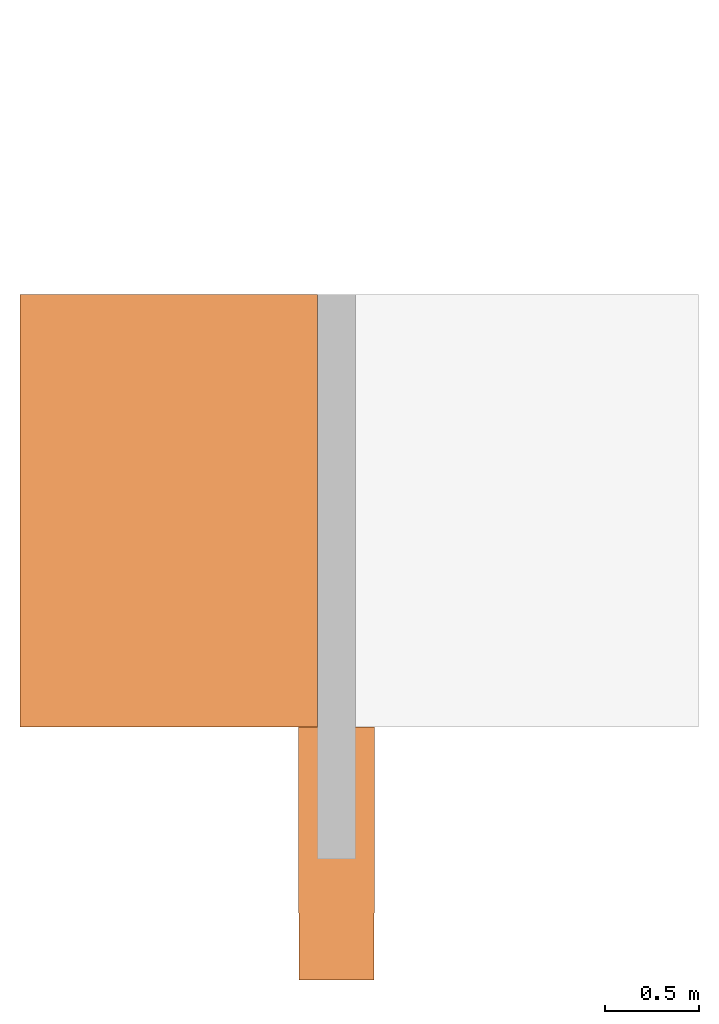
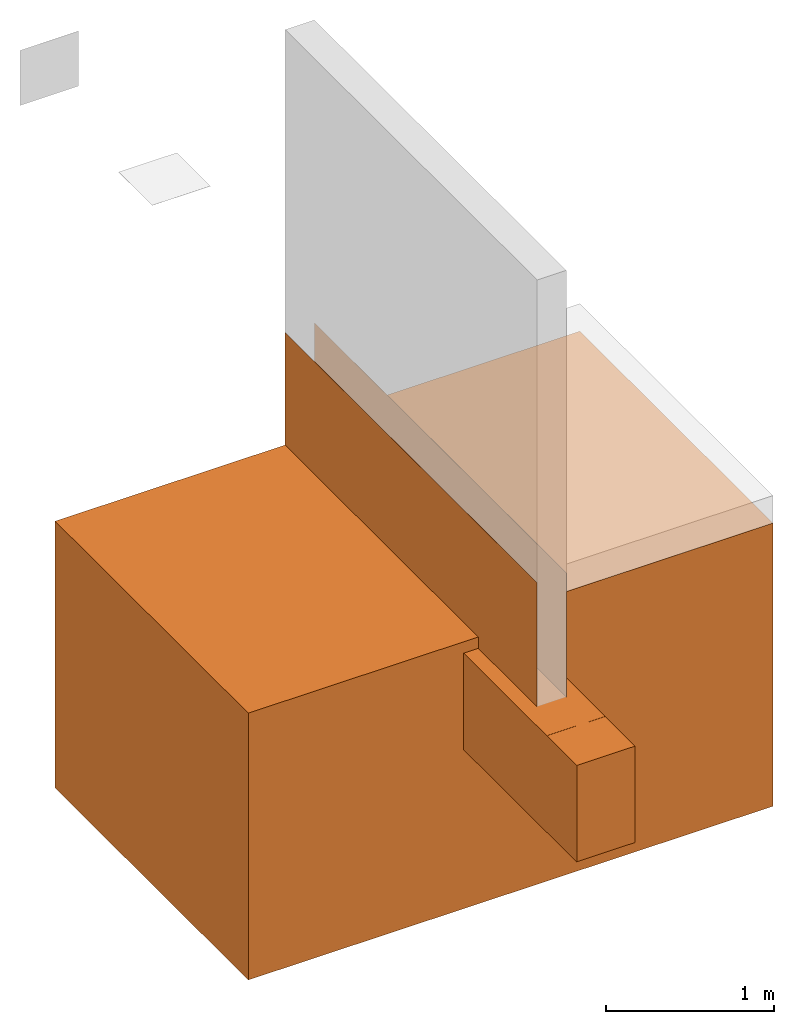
# One storey, part 2 of 2: 1 proxy.
"""IFC2X3 building model written with IfcOpenShell, lengths in metres."""

import ifcopenshell
import ifcopenshell.guid

model = None  # the IFC model being written
_history = None  # IfcOwnerHistory: only IFC2X3 demands one
_inside = {}  # id of a spatial element -> (the spatial element, [elements in it])
_under = {}  # id of a project, library or spatial element -> (it, [spatial elements below it])
_declared = {}  # id of a project -> (the project, [libraries it declares])
_typed = {}  # id of a type object -> (the type object, [elements of that type])
_made_of = {}  # id of a material, layer set ... -> (it, [elements and type objects made of it])


def new_model(schema):
    """Start an empty IFC model of exactly this schema.

    Asked for "IFC4X3", IfcOpenShell would pick the latest addendum, in which some entities
    have other attributes; the version numbers below select the first issue.
    IFC2X3 requires an IfcOwnerHistory on every rooted entity: one is made here for all.
    """
    global model, _history
    if schema == "IFC4X3":
        model = ifcopenshell.file(schema_version=(4, 3, 0, 0))
    else:
        model = ifcopenshell.file(schema=schema)
    _inside.clear()
    _under.clear()
    _declared.clear()
    _typed.clear()
    _made_of.clear()
    _history = None
    if model.schema == "IFC2X3":
        org = make("IfcOrganization", Name="unknown")
        user = make(
            "IfcPersonAndOrganization",
            ThePerson=make("IfcPerson", FamilyName="unknown"),
            TheOrganization=org,
        )
        app = make(
            "IfcApplication",
            ApplicationDeveloper=org,
            Version="unknown",
            ApplicationFullName="unknown",
            ApplicationIdentifier="unknown",
        )
        _history = make(
            "IfcOwnerHistory",
            OwningUser=user,
            OwningApplication=app,
            ChangeAction="ADDED",
            CreationDate=0,
        )
    return model


def make(cls, **values):
    """One entity of the class cls with the attributes given. An attribute that is None is left unset."""
    return model.create_entity(
        cls, **{name: value for name, value in values.items() if value is not None}
    )


def entity(cls, *values):
    """Any entity or typed value of the class cls, its attributes in the order of the schema. None: left unset."""
    e = model.create_entity(cls)
    for i, value in enumerate(values):
        if value is not None:
            e[i] = value
    return e


def rooted(cls, **values):
    """An entity with a GlobalId (a new one), such as an element, a storey or a relation."""
    return make(cls, GlobalId=ifcopenshell.guid.new(), OwnerHistory=_history, **values)


def si_unit(unit_type, name, prefix=None):
    """IfcSIUnit, for example si_unit("LENGTHUNIT", "METRE", prefix="MILLI")."""
    return make("IfcSIUnit", UnitType=unit_type, Prefix=prefix, Name=name)


def converted_unit(unit_type, name, factor, base, dimensions=None, offset=None):
    """IfcConversionBasedUnit, such as the inch: factor (a typed value) times the base unit."""
    return make(
        "IfcConversionBasedUnit"
        if offset is None
        else "IfcConversionBasedUnitWithOffset",
        ConversionOffset=offset,
        Dimensions=None
        if dimensions is None
        else entity("IfcDimensionalExponents", *dimensions),
        UnitType=unit_type,
        Name=name,
        ConversionFactor=make(
            "IfcMeasureWithUnit", ValueComponent=factor, UnitComponent=base
        ),
    )


def derived_unit(unit_type, elements):
    """IfcDerivedUnit: a product of units, each with its exponent."""
    return make(
        "IfcDerivedUnit",
        Elements=[
            make("IfcDerivedUnitElement", Unit=unit, Exponent=power)
            for unit, power in elements
        ],
        UnitType=unit_type,
    )


def assignment(units):
    """IfcUnitAssignment: the units of a project."""
    return None if units is None else make("IfcUnitAssignment", Units=units)


def point(xyz):
    """IfcCartesianPoint."""
    return None if xyz is None else make("IfcCartesianPoint", Coordinates=xyz)


def direction(xyz):
    """IfcDirection."""
    return None if xyz is None else make("IfcDirection", DirectionRatios=xyz)


def frame(location, z_axis=None, x_axis=None):
    """IfcAxis2Placement3D, a coordinate frame: its origin and axes. An axis left out is left unset."""
    return make(
        "IfcAxis2Placement3D",
        Location=point(location),
        Axis=direction(z_axis),
        RefDirection=direction(x_axis),
    )


def frame_2d(location, x_axis=None):
    """IfcAxis2Placement2D, a coordinate frame in the plane: its origin and x axis."""
    return make(
        "IfcAxis2Placement2D", Location=point(location), RefDirection=direction(x_axis)
    )


def origin():
    """The frame at (0, 0, 0) with its axes left unset."""
    return frame((0.0, 0.0, 0.0))


def origin_2d_with_axis():
    """The frame at (0, 0) in the plane with the x axis (1, 0) written out."""
    return frame_2d((0.0, 0.0), x_axis=(1.0, 0.0))


def place(relative_to, where):
    """IfcLocalPlacement: puts the frame where relative to a parent placement (None: the world)."""
    return make(
        "IfcLocalPlacement", PlacementRelTo=relative_to, RelativePlacement=where
    )


def context(
    kind, dimensions, precision=None, world=None, true_north=None, identifier=None
):
    """IfcGeometricRepresentationContext, for example the 3D "Model" context."""
    return make(
        "IfcGeometricRepresentationContext",
        ContextIdentifier=identifier,
        ContextType=kind,
        CoordinateSpaceDimension=dimensions,
        Precision=precision,
        WorldCoordinateSystem=world,
        TrueNorth=true_north,
    )


def subcontext(parent, identifier, kind, view, scale=None):
    """IfcGeometricRepresentationSubContext, for example "Body" below "Model"."""
    return make(
        "IfcGeometricRepresentationSubContext",
        ContextIdentifier=identifier,
        ContextType=kind,
        ParentContext=parent,
        TargetScale=scale,
        TargetView=view,
    )


def project(units=None, contexts=None):
    """IfcProject with its units and contexts."""
    return rooted(
        "IfcProject",
        Name="project",
        RepresentationContexts=contexts,
        UnitsInContext=assignment(units),
    )


def spatial(cls, under=None, at=None, **own):
    """A site, building, storey or space (cls), placed at a placement, below another one or the project."""
    s = rooted(cls, ObjectPlacement=at, **own)
    if under is not None:
        _under.setdefault(under.id(), (under, []))[1].append(s)
    return s


def polyline(points):
    """IfcPolyline through the points."""
    return make("IfcPolyline", Points=[point(p) for p in points])


def profile(cls, at=None, kind="AREA", **sizes):
    """A parametric profile (cls). Its sizes go by their IFC names, for example OverallWidth=200.0."""
    return make(cls, ProfileType=kind, Position=at, **sizes)


def rectangle(**sizes):
    """IfcRectangleProfileDef."""
    return profile("IfcRectangleProfileDef", **sizes)


def outline(outer, holes=None, kind="AREA"):
    """IfcArbitraryClosedProfileDef: a profile drawn as a closed curve; with holes, ...WithVoids."""
    if holes is None:
        return make("IfcArbitraryClosedProfileDef", ProfileType=kind, OuterCurve=outer)
    return make(
        "IfcArbitraryProfileDefWithVoids",
        ProfileType=kind,
        OuterCurve=outer,
        InnerCurves=holes,
    )


def extrude(swept, where, along, depth):
    """IfcExtrudedAreaSolid: the profile swept, set in the frame where, extruded along a direction by depth."""
    return make(
        "IfcExtrudedAreaSolid",
        SweptArea=swept,
        Position=where,
        ExtrudedDirection=direction(along),
        Depth=depth,
    )


def shape(context_of_items, identifier, shape_type, items):
    """IfcShapeRepresentation: the items that make up one representation, for example the "Body"."""
    return make(
        "IfcShapeRepresentation",
        ContextOfItems=context_of_items,
        RepresentationIdentifier=identifier,
        RepresentationType=shape_type,
        Items=items,
    )


def source(mapping_origin, context_of_items, identifier, shape_type, items):
    """IfcRepresentationMap: a shape defined once, which mapped items show again and again."""
    return make(
        "IfcRepresentationMap",
        MappingOrigin=mapping_origin,
        MappedRepresentation=shape(context_of_items, identifier, shape_type, items),
    )


def transform(
    local_origin,
    x_axis=None,
    y_axis=None,
    z_axis=None,
    scale=None,
    scale2=None,
    scale3=None,
    uniform=True,
):
    """IfcCartesianTransformationOperator3D, or its non-uniform kind. x_axis, y_axis, z_axis: its Axis1, 2, 3."""
    if uniform:
        return make(
            "IfcCartesianTransformationOperator3D",
            Axis1=direction(x_axis),
            Axis2=direction(y_axis),
            LocalOrigin=point(local_origin),
            Scale=scale,
            Axis3=direction(z_axis),
        )
    return make(
        "IfcCartesianTransformationOperator3DnonUniform",
        Axis1=direction(x_axis),
        Axis2=direction(y_axis),
        LocalOrigin=point(local_origin),
        Scale=scale,
        Axis3=direction(z_axis),
        Scale2=scale2,
        Scale3=scale3,
    )


def mapped(mapping_source, mapping_target):
    """IfcMappedItem: shows the shape of a source again, moved by a transform."""
    return make(
        "IfcMappedItem", MappingSource=mapping_source, MappingTarget=mapping_target
    )


def material(Name=None, Category=None):
    """IfcMaterial."""
    return make("IfcMaterial", Name=Name, Category=Category)


def material_list(materials):
    """IfcMaterialList."""
    return make("IfcMaterialList", Materials=materials)


def made_of(thing, what):
    """Note that an element or type object is made of a material, layer set ...; save() writes the relation."""
    if what is not None:
        _made_of.setdefault(what.id(), (what, []))[1].append(thing)
    return thing


def type_object(cls, material=None, **own):
    """A type object (cls), such as IfcWallType, which elements share."""
    return made_of(rooted(cls, **own), material)


def type_shapes(of_type, sources):
    """Give a type object the sources (RepresentationMaps) that its elements show as mapped items."""
    of_type.RepresentationMaps = sources


def element(
    cls,
    number,
    at=None,
    inside=None,
    cuts=None,
    type_object=None,
    material=None,
    context=None,
    identifier="Body",
    shape_type=None,
    held_by="IfcProductDefinitionShape",
    body=None,
    shapes=None,
    **own,
):
    """One element of the class cls, such as IfcWall. Its Tag is "e" and its number.

    at: its placement. inside: the storey or other place that contains it. cuts: it is an
    opening in that element (IfcRelVoidsElement). A single representation is given by context,
    identifier, shape_type and body (its items); several are given by shapes. held_by: the class
    of the entity that holds the representations. save() writes the other relations.
    """
    e = rooted(cls, Tag="e%d" % number, ObjectPlacement=at, **own)
    if body is not None:
        shapes = [shape(context, identifier, shape_type, body)]
    if shapes is not None:
        e.Representation = make(held_by, Representations=shapes)
    if inside is not None:
        _inside.setdefault(inside.id(), (inside, []))[1].append(e)
    if cuts is not None:
        rooted(
            "IfcRelVoidsElement", RelatingBuildingElement=cuts, RelatedOpeningElement=e
        )
    if type_object is not None:
        _typed.setdefault(type_object.id(), (type_object, []))[1].append(e)
    return made_of(e, material)


def aggregate(whole, parts):
    """IfcRelAggregates: a whole, such as a stair, and the parts it consists of."""
    return rooted("IfcRelAggregates", RelatingObject=whole, RelatedObjects=parts)


def save(model, path):
    """Write the relations noted so far, then the file.

    IfcRelAggregates (storeys below a building ...), IfcRelContainedInSpatialStructure (elements
    in a storey), IfcRelDefinesByType, IfcRelAssociatesMaterial and IfcRelDeclares: one each for
    every whole, place, type object, material and project.
    """
    for whole, parts in _under.values():
        aggregate(whole, parts)
    for where, things in _inside.values():
        rooted(
            "IfcRelContainedInSpatialStructure",
            RelatedElements=things,
            RelatingStructure=where,
        )
    for kind, things in _typed.values():
        rooted("IfcRelDefinesByType", RelatedObjects=things, RelatingType=kind)
    for what, things in _made_of.values():
        rooted("IfcRelAssociatesMaterial", RelatedObjects=things, RelatingMaterial=what)
    for by, libraries in _declared.values():
        rooted("IfcRelDeclares", RelatingContext=by, RelatedDefinitions=libraries)
    model.write(path)


model = new_model("IFC2X3")

# Units and contexts
model_context = context("Model", 3, precision=1e-05, world=origin(), true_north=direction((6.123031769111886e-17, 1.0)))
body_context = subcontext(model_context, "Body", "Model", "MODEL_VIEW")
ifc_project = project(units=[si_unit("LENGTHUNIT", "METRE"), si_unit("AREAUNIT", "SQUARE_METRE"), si_unit("VOLUMEUNIT", "CUBIC_METRE"), converted_unit("PLANEANGLEUNIT", "DEGREE", entity("IfcRatioMeasure", 0.017453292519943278), si_unit("PLANEANGLEUNIT", "RADIAN"), dimensions=[0, 0, 0, 0, 0, 0, 0]), si_unit("MASSUNIT", "GRAM", prefix="KILO"), derived_unit("MASSDENSITYUNIT", [(si_unit("MASSUNIT", "GRAM", prefix="KILO"), 1), (si_unit("LENGTHUNIT", "METRE"), -3)]), derived_unit("IONCONCENTRATIONUNIT", [(si_unit("MASSUNIT", "GRAM", prefix="KILO"), 1), (si_unit("LENGTHUNIT", "METRE"), -3)]), derived_unit("MOMENTOFINERTIAUNIT", [(si_unit("LENGTHUNIT", "METRE"), 4)]), si_unit("TIMEUNIT", "SECOND"), si_unit("FREQUENCYUNIT", "HERTZ"), si_unit("THERMODYNAMICTEMPERATUREUNIT", "DEGREE_CELSIUS"), derived_unit("THERMALTRANSMITTANCEUNIT", [(si_unit("MASSUNIT", "GRAM", prefix="KILO"), 1), (si_unit("THERMODYNAMICTEMPERATUREUNIT", "KELVIN"), -1), (si_unit("TIMEUNIT", "SECOND"), -3)]), derived_unit("THERMALCONDUCTANCEUNIT", [(si_unit("MASSUNIT", "GRAM", prefix="KILO"), 1), (si_unit("THERMODYNAMICTEMPERATUREUNIT", "KELVIN"), -1), (si_unit("TIMEUNIT", "SECOND"), -3), (si_unit("LENGTHUNIT", "METRE"), 1)]), derived_unit("VOLUMETRICFLOWRATEUNIT", [(si_unit("LENGTHUNIT", "METRE"), 3), (si_unit("TIMEUNIT", "SECOND"), -1)]), derived_unit("MASSFLOWRATEUNIT", [(si_unit("MASSUNIT", "GRAM", prefix="KILO"), 1), (si_unit("TIMEUNIT", "SECOND"), -1)]), derived_unit("ROTATIONALFREQUENCYUNIT", [(si_unit("TIMEUNIT", "SECOND"), -1)]), si_unit("ELECTRICCURRENTUNIT", "AMPERE"), si_unit("ELECTRICVOLTAGEUNIT", "VOLT"), si_unit("POWERUNIT", "WATT"), si_unit("FORCEUNIT", "NEWTON", prefix="KILO"), si_unit("ILLUMINANCEUNIT", "LUX"), si_unit("LUMINOUSFLUXUNIT", "LUMEN"), si_unit("LUMINOUSINTENSITYUNIT", "CANDELA"), derived_unit("USERDEFINED", [(si_unit("MASSUNIT", "GRAM", prefix="KILO"), -1), (si_unit("LENGTHUNIT", "METRE"), -2), (si_unit("TIMEUNIT", "SECOND"), 3), (si_unit("LUMINOUSFLUXUNIT", "LUMEN"), 1)]), derived_unit("USERDEFINED", [(si_unit("MASSUNIT", "GRAM", prefix="KILO"), 1), (si_unit("TIMEUNIT", "SECOND"), -3), (si_unit("LENGTHUNIT", "METRE"), 3), (si_unit("ELECTRICCURRENTUNIT", "AMPERE"), -2)]), derived_unit("SOUNDPOWERUNIT", [(si_unit("MASSUNIT", "GRAM", prefix="KILO"), 1), (si_unit("TIMEUNIT", "SECOND"), -3), (si_unit("LENGTHUNIT", "METRE"), 2)]), derived_unit("SOUNDPRESSUREUNIT", [(si_unit("MASSUNIT", "GRAM", prefix="KILO"), 1), (si_unit("LENGTHUNIT", "METRE"), -1), (si_unit("TIMEUNIT", "SECOND"), -2)]), derived_unit("LINEARVELOCITYUNIT", [(si_unit("LENGTHUNIT", "METRE"), 1), (si_unit("TIMEUNIT", "SECOND"), -1)]), si_unit("PRESSUREUNIT", "PASCAL"), derived_unit("USERDEFINED", [(si_unit("MASSUNIT", "GRAM", prefix="KILO"), 1), (si_unit("LENGTHUNIT", "METRE"), -2), (si_unit("TIMEUNIT", "SECOND"), -2)]), derived_unit("LINEARFORCEUNIT", [(si_unit("MASSUNIT", "GRAM", prefix="KILO"), 1), (si_unit("TIMEUNIT", "SECOND"), -2)]), derived_unit("PLANARFORCEUNIT", [(si_unit("MASSUNIT", "GRAM", prefix="KILO"), 1), (si_unit("LENGTHUNIT", "METRE"), -1), (si_unit("TIMEUNIT", "SECOND"), -2)]), derived_unit("SPECIFICHEATCAPACITYUNIT", [(si_unit("THERMODYNAMICTEMPERATUREUNIT", "KELVIN"), -1), (si_unit("LENGTHUNIT", "METRE"), 2), (si_unit("TIMEUNIT", "SECOND"), -2)]), derived_unit("HEATINGVALUEUNIT", [(si_unit("LENGTHUNIT", "METRE"), 2), (si_unit("TIMEUNIT", "SECOND"), -2)]), derived_unit("VAPORPERMEABILITYUNIT", [(si_unit("LENGTHUNIT", "METRE"), -1), (si_unit("TIMEUNIT", "SECOND"), 1)]), derived_unit("DYNAMICVISCOSITYUNIT", [(si_unit("MASSUNIT", "GRAM", prefix="KILO"), 1), (si_unit("TIMEUNIT", "SECOND"), -1), (si_unit("LENGTHUNIT", "METRE"), -1)]), derived_unit("THERMALEXPANSIONCOEFFICIENTUNIT", [(si_unit("THERMODYNAMICTEMPERATUREUNIT", "KELVIN"), -1)]), derived_unit("MODULUSOFELASTICITYUNIT", [(si_unit("MASSUNIT", "GRAM", prefix="KILO"), 1), (si_unit("LENGTHUNIT", "METRE"), -1), (si_unit("TIMEUNIT", "SECOND"), -2)]), derived_unit("ISOTHERMALMOISTURECAPACITYUNIT", [(si_unit("LENGTHUNIT", "METRE"), 3), (si_unit("MASSUNIT", "GRAM", prefix="KILO"), -1)]), derived_unit("MOISTUREDIFFUSIVITYUNIT", [(si_unit("TIMEUNIT", "SECOND"), -1), (si_unit("LENGTHUNIT", "METRE"), 2)])], contexts=[model_context])

# Site, building, storey
site_placement = place(None, origin())
site = spatial("IfcSite", under=ifc_project, at=site_placement, Name="Default", CompositionType="ELEMENT")
building_placement = place(site_placement, origin())
building = spatial("IfcBuilding", under=site, at=building_placement, CompositionType="ELEMENT")
storey_placement = place(building_placement, frame((0.0, 0.0, -0.0025237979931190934)))
storey = spatial("IfcBuildingStorey", under=building, at=storey_placement, Name="ARQ Térreo", CompositionType="ELEMENT", Elevation=-0.0025237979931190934)

# Proxy
ifc_material_1 = material(Name="#Vandex Super")
ifc_material_2 = material(Name="#solo")
ifc_material_3 = material(Name="#concreto")
ifc_material_list = material_list([ifc_material_1, ifc_material_2, ifc_material_3])
building_element_proxy_type = type_object("IfcBuildingElementProxyType", Name="IMPER:IMPER", PredefinedType="NOTDEFINED", material=ifc_material_list)
shared_shape = source(origin(), body_context, "Body", "SweptSolid", [
    extrude(rectangle(XDim=3.0000000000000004, YDim=0.0009999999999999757, at=frame_2d((0.0, 3.382710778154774e-17), x_axis=(1.0, 0.0))), frame((-0.5274704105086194, -1.354129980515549, -0.6033780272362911), z_axis=(0.0, 0.0, 1.0), x_axis=(0.0, -1.0, 0.0)), (0.0, 0.0, 1.0), 0.9008542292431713),
    extrude(rectangle(XDim=3.0000000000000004, YDim=0.0009999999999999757, at=frame_2d((0.0, 3.382710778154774e-17), x_axis=(1.0, 0.0))), frame((-0.3264704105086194, -1.354129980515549, -0.6033780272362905), z_axis=(0.0, 0.0, 1.0), x_axis=(0.0, -1.0, 0.0)), (0.0, 0.0, 1.0), 0.9008542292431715),
    extrude(outline(polyline([(-0.20100000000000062, -0.35100000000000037), (0.20100000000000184, -0.35100000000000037), (0.20100000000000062, 0.3510000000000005), (-0.20100000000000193, 0.3510000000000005), (-0.20100000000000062, -0.35100000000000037)]), holes=[polyline([(-0.2000000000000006, -0.3500000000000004), (-0.20000000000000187, 0.3500000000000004), (0.2000000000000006, 0.3500000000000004), (0.20000000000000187, -0.3500000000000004), (-0.2000000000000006, -0.3500000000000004)])]), frame((-0.4269704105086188, -3.1423995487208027, -0.9543780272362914), z_axis=(0.0, 1.0, 0.0), x_axis=(1.0, 0.0, 0.0)), (0.0, 0.0, 1.0), 3.0382695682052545),
    extrude(outline(polyline([(0.37823501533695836, 0.05943944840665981), (0.5800892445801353, 0.05943944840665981), (0.5800892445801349, 1.8844394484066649), (-1.4768796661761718, 1.8844394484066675), (-1.4768796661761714, -1.7221972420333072), (0.4620853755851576, -1.7221972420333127), (0.4620853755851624, -0.14056055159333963), (0.3782350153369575, -0.14056055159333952), (0.3782350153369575, -0.24056055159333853), (-0.3217649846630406, -0.24056055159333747), (-0.32176498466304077, 0.1594394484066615), (0.3782350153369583, 0.15943944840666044), (0.37823501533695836, 0.05943944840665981)])), frame((-0.386409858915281, -2.154129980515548, -0.9826130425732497), z_axis=(0.0, 1.0, 0.0), x_axis=(0.0, 0.0, 1.0)), (0.0, 0.0, 1.0), 2.3000000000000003),
    extrude(rectangle(XDim=3.6439143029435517, YDim=0.40000000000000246, at=origin_2d_with_axis()), frame((-0.4269704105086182, -1.6760871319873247, -1.3043780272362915), z_axis=(0.0, 0.0, 1.0), x_axis=(0.0, -1.0, 0.0)), (0.0, 0.0, 1.0), 0.7000000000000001),
])
type_shapes(building_element_proxy_type, [shared_shape])
proxy_placement = place(storey_placement, frame((0.0, 0.0, 0.0025237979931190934)))
element("IfcBuildingElementProxy", 1, at=proxy_placement, inside=storey, type_object=building_element_proxy_type, material=ifc_material_list, Name="IMPER:IMPER:IMPER : IMPER:IMPER", ObjectType="IMPER:IMPER:IMPER : IMPER:IMPER", context=body_context, shape_type="MappedRepresentation", body=[
    mapped(shared_shape, transform((0.0, 0.0, 0.0), scale=1.0)),
])

save(model, "model.ifc")
